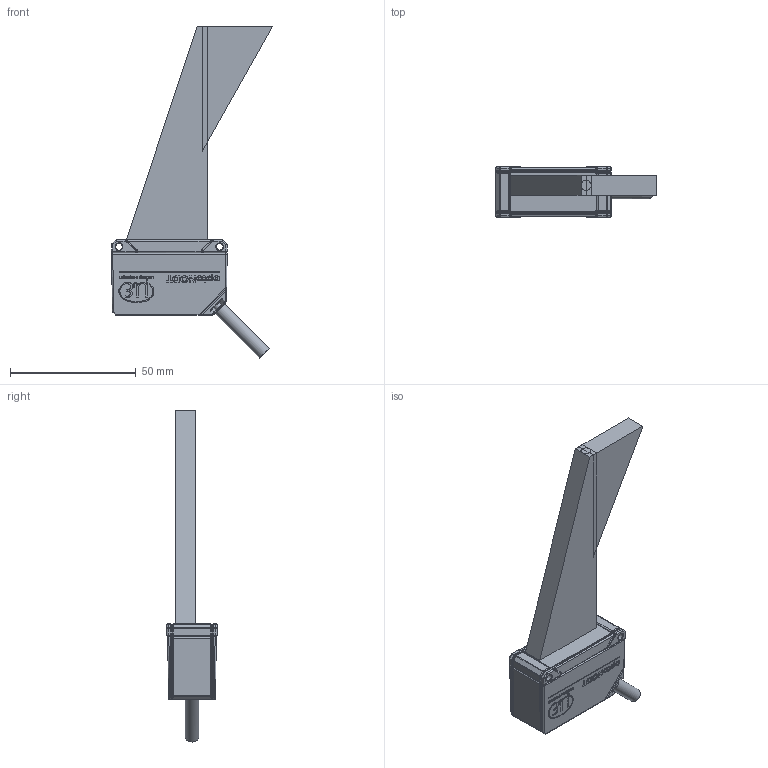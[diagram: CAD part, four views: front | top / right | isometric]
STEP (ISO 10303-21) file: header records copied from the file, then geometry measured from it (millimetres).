
FILE_DESCRIPTION (( 'STEP AP214' ), '1' );
FILE_NAME ('ILD1320-1420_MB50.STEP', '2016-07-13T07:20:49', ( '' ), ( '' ), 'SwSTEP 2.0', 'SolidWorks 2016', '' );
FILE_SCHEMA (( 'AUTOMOTIVE_DESIGN' ));
Length unit declared in the file: millimetre
Products named in the file (5): ILD1320-1420_000; reflexion_free_space_MB50_000; ILD1320-1420_MB50; laserbeam_tolerance_000; optical_free_space_MB50_000
Assembly tree (4 placements, depth 2):
  ILD1320-1420_MB50
    ILD1320-1420_000
    optical_free_space_MB50_000
    reflexion_free_space_MB50_000
    laserbeam_tolerance_000
Bounding box: 63.99 x 20 x 131.9 mm (x, y, z)
Volume: 43468.5 mm3; surface area: 16382.4 mm2
Topology: 6 solids, 8 shells, 1767 faces, 4426 edges, 2696 vertices
Faces by surface type: bspline 840, plane 567, cylinder 348, cone 12
Full cylindrical faces by diameter (mm): 2.7 x2, 3 x2, 3.3 x1, 5.4 x1
Entity records: 66604 total; most frequent: CARTESIAN_POINT 31102, ORIENTED_EDGE 8684, DIRECTION 4875, EDGE_CURVE 4342, VERTEX_POINT 2682, LINE 2001, VECTOR 2001, EDGE_LOOP 1862
